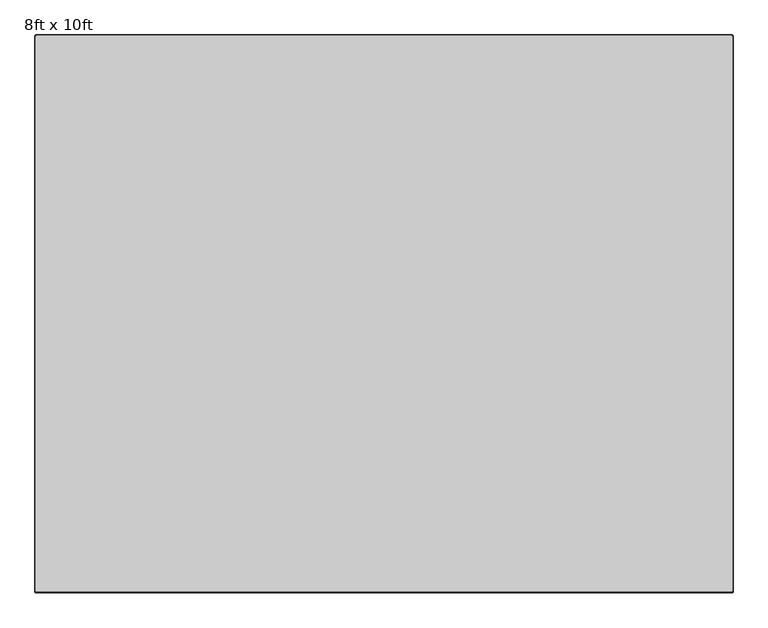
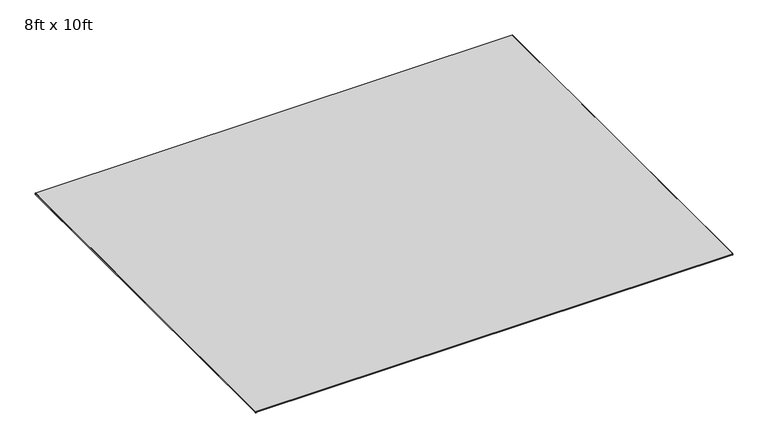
"""IFC4 building model written with IfcOpenShell, lengths in millimetres: furniture geometry, Coalesse_AM_Accessory_Rug_Nanimarquina_Basket : 8ft x 10ft."""

from ifc_helpers import new_model, si_unit, frame, origin, place, context, project, spatial, polyline, circle_curve, source, transform, mapped, element, save
from ifc_brep_helpers import plane_surface, cylinder_surface, revolved_surface, advanced_brep


def furniture_8ft_x_10ft_1f9c8995(model_context):
    return source(origin(), model_context, "Body", "AdvancedBrep", [
        advanced_brep(
        [(-658.8809829, 798.9249977, 6.9850002), (-661.4265124, 796.3794681, 6.9850002), (-661.4265124, -1631.8550023, 6.9850002), (-658.8865124, -1634.3950023, 6.9850002), (2378.9533713, -1634.3950023, 6.9850002), (2381.4933713, -1631.8550023, 6.9850002), (2381.4933713, 796.3849977, 6.9850002), (2378.9533713, 798.9249977, 6.9850002), (-663.9665124, 796.3794681, 0.0), (-658.8809829, 801.4649977, 0.0), (2378.9533713, 801.4649977, 0.0), (2384.0333713, 796.3849977, 0.0), (2384.0333713, -1631.8550023, 0.0), (2378.9533713, -1636.9350023, 0.0), (-658.8865124, -1636.9350023, 0.0), (-663.9665124, -1631.8550023, 0.0), (-663.9665124, 796.3794681, 4.4450002), (-658.8809829, 801.4649977, 4.4450002), (-663.9665124, -1631.8550023, 4.4450002), (-658.8865124, -1636.9350023, 4.4450002), (2378.9533713, -1636.9350023, 4.4450002), (2384.0333713, -1631.8550023, 4.4450002), (2384.0333713, 796.3849977, 4.4450002), (2378.9533713, 801.4649977, 4.4450002)],
        [
            (0, 1, circle_curve(frame((-658.8809829, 796.3794681, 6.9850002), z_axis=(0.0, 0.0, 1.0), x_axis=(0.0, 1.0, 0.0)), 2.5455296)),
            (1, 2),
            (2, 3, circle_curve(frame((-658.8865124, -1631.8550023, 6.9850002), z_axis=(0.0, 0.0, 1.0), x_axis=(-1.0, 0.0, 0.0)), 2.54)),
            (3, 4),
            (4, 5, circle_curve(frame((2378.9533713, -1631.8550023, 6.9850002), z_axis=(0.0, 0.0, 1.0), x_axis=(0.0, -1.0, 0.0)), 2.54)),
            (5, 6),
            (6, 7, circle_curve(frame((2378.9533713, 796.3849977, 6.9850002), z_axis=(0.0, 0.0, 1.0), x_axis=(1.0, 0.0, 0.0)), 2.54)),
            (7, 0),
            (8, 9, circle_curve(frame((-658.8809829, 796.3794681, 0.0), z_axis=(0.0, 0.0, -1.0), x_axis=(0.0, 1.0, 0.0)), 5.0855296)),
            (9, 10),
            (10, 11, circle_curve(frame((2378.9533713, 796.3849977, 0.0), z_axis=(0.0, 0.0, -1.0), x_axis=(1.0, 0.0, 0.0)), 5.08)),
            (11, 12),
            (12, 13, circle_curve(frame((2378.9533713, -1631.8550023, 0.0), z_axis=(0.0, 0.0, -1.0), x_axis=(0.0, -1.0, 0.0)), 5.08)),
            (13, 14),
            (14, 15, circle_curve(frame((-658.8865124, -1631.8550023, 0.0), z_axis=(0.0, 0.0, -1.0), x_axis=(-1.0, 0.0, 0.0)), 5.08)),
            (15, 8),
            (16, 17, circle_curve(frame((-658.8809829, 796.3794681, 4.4450002), z_axis=(0.0, 0.0, -1.0), x_axis=(0.0, 1.0, 0.0)), 5.0855296)),
            (17, 9),
            (8, 16),
            (16, 1),
            (0, 17),
            (15, 18),
            (18, 16),
            (18, 2),
            (14, 19),
            (19, 18, circle_curve(frame((-658.8865124, -1631.8550023, 4.4450002), z_axis=(0.0, 0.0, -1.0), x_axis=(-1.0, 0.0, 0.0)), 5.08)),
            (19, 3),
            (13, 20),
            (20, 19),
            (20, 4),
            (12, 21),
            (21, 20, circle_curve(frame((2378.9533713, -1631.8550023, 4.4450002), z_axis=(0.0, 0.0, -1.0), x_axis=(0.0, -1.0, 0.0)), 5.08)),
            (21, 5),
            (11, 22),
            (22, 21),
            (22, 6),
            (10, 23),
            (23, 22, circle_curve(frame((2378.9533713, 796.3849977, 4.4450002), z_axis=(0.0, 0.0, -1.0), x_axis=(1.0, 0.0, 0.0)), 5.08)),
            (23, 7),
            (17, 23),
        ],
        [
            plane_surface(frame((-658.8809829, 798.9249977, 6.9850002), z_axis=(0.0, 0.0, 1.0), x_axis=(-1.0, 0.0, 0.0))),
            plane_surface(frame((-658.8809829, 798.9249977, 0.0), z_axis=(0.0, 0.0, -1.0), x_axis=(1.0, 0.0, 0.0))),
            cylinder_surface(frame((-658.8809829, 796.3794681, 0.0), z_axis=(0.0, 0.0, 1.0), x_axis=(0.0, 1.0, 0.0)), 5.0855296),
            revolved_surface(polyline([(-658.8809829, 801.4649977, 4.4450002), (-658.8809829, 798.9249977, 6.9850002)]), (-658.8809829, 796.3794681, 0.0), (0.0, 0.0, 1.0)),
            plane_surface(frame((-663.9665124, 796.3794681, 0.0), z_axis=(-1.0, 0.0, 0.0), x_axis=(0.0, -1.0, 0.0))),
            plane_surface(frame((-663.9665124, 796.3794681, 4.4450002), z_axis=(-0.7071067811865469, 0.0, 0.7071067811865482), x_axis=(0.0, -1.0, 0.0))),
            cylinder_surface(frame((-658.8865124, -1631.8550023, 0.0), z_axis=(0.0, 0.0, 1.0), x_axis=(-1.0, 0.0, 0.0)), 5.08),
            revolved_surface(polyline([(-663.9665124, -1631.8550023, 4.4450002), (-661.4265124, -1631.8550023, 6.9850002)]), (-658.8865124, -1631.8550023, 0.0), (0.0, 0.0, 1.0)),
            plane_surface(frame((-658.8865124, -1636.9350023, 0.0), z_axis=(0.0, -1.0, 0.0), x_axis=(1.0, 0.0, 0.0))),
            plane_surface(frame((-658.8865124, -1636.9350023, 4.4450002), z_axis=(0.0, -0.7071067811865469, 0.7071067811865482), x_axis=(1.0, 0.0, 0.0))),
            cylinder_surface(frame((2378.9533713, -1631.8550023, 0.0), z_axis=(0.0, 0.0, 1.0), x_axis=(0.0, -1.0, 0.0)), 5.08),
            revolved_surface(polyline([(2378.9533713, -1636.9350023, 4.4450002), (2378.9533713, -1634.3950023, 6.9850002)]), (2378.9533713, -1631.8550023, 0.0), (0.0, 0.0, 1.0)),
            plane_surface(frame((2384.0333713, -1631.8550023, 0.0), z_axis=(1.0, 0.0, 0.0), x_axis=(0.0, 1.0, 0.0))),
            plane_surface(frame((2384.0333713, -1631.8550023, 4.4450002), z_axis=(0.7071067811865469, 0.0, 0.7071067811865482), x_axis=(0.0, 1.0, 0.0))),
            cylinder_surface(frame((2378.9533713, 796.3849977, 0.0), z_axis=(0.0, 0.0, 1.0), x_axis=(1.0, 0.0, 0.0)), 5.08),
            revolved_surface(polyline([(2384.0333713, 796.3849977, 4.4450002), (2381.4933713, 796.3849977, 6.9850002)]), (2378.9533713, 796.3849977, 0.0), (0.0, 0.0, 1.0)),
            plane_surface(frame((2378.9533713, 801.4649977, 0.0), z_axis=(0.0, 1.0, 0.0), x_axis=(-1.0, 0.0, 0.0))),
            plane_surface(frame((2378.9533713, 801.4649977, 4.4450002), z_axis=(0.0, 0.7071067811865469, 0.7071067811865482), x_axis=(-1.0, 0.0, 0.0))),
        ],
        [
            (0, [[1, 2, 3, 4, 5, 6, 7, 8]]),
            (1, [[9, 10, 11, 12, 13, 14, 15, 16]]),
            (2, [[17, 18, -9, 19]]),
            (3, [[-17, 20, -1, 21]]),
            (4, [[-19, -16, 22, 23]]),
            (5, [[-20, -23, 24, -2]]),
            (6, [[-22, -15, 25, 26]]),
            (7, [[-24, -26, 27, -3]]),
            (8, [[-25, -14, 28, 29]]),
            (9, [[-27, -29, 30, -4]]),
            (10, [[-28, -13, 31, 32]]),
            (11, [[-30, -32, 33, -5]]),
            (12, [[-31, -12, 34, 35]]),
            (13, [[-33, -35, 36, -6]]),
            (14, [[-34, -11, 37, 38]]),
            (15, [[-36, -38, 39, -7]]),
            (16, [[-18, 40, -37, -10]]),
            (17, [[-21, -8, -39, -40]]),
        ],
    ),
    ])


if __name__ == "__main__":
    model = new_model("IFC4")
    model_context = context("Model", 3, world=origin())
    ifc_project = project(units=[si_unit("LENGTHUNIT", "METRE", prefix="MILLI")], contexts=[model_context])
    site = spatial("IfcSite", under=ifc_project)
    building = spatial("IfcBuilding", under=site)
    placement = place(None, origin())
    furniture_8ft_x_10ft_shape = furniture_8ft_x_10ft_1f9c8995(model_context)
    element("IfcFurniture", 1, ObjectType="Coalesse_AM_Accessory_Rug_Nanimarquina_Basket : 8ft x 10ft", at=placement, inside=building, context=model_context, shape_type="MappedRepresentation", body=[
        mapped(furniture_8ft_x_10ft_shape, transform((0.0, 0.0, 0.0), x_axis=(1.0, 0.0, 0.0), y_axis=(0.0, 1.0, 0.0), z_axis=(0.0, 0.0, 1.0))),
    ])
    save(model, "model.ifc")
